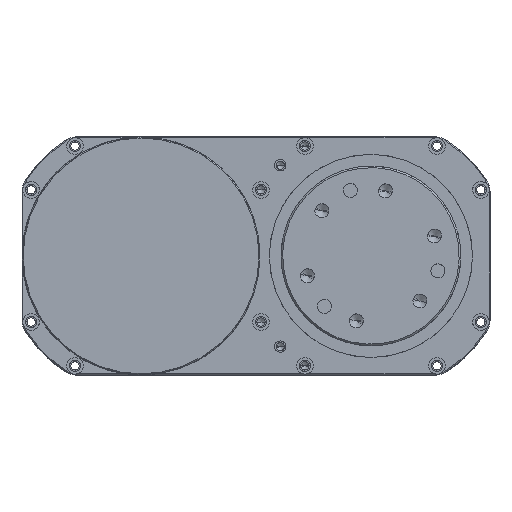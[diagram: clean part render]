
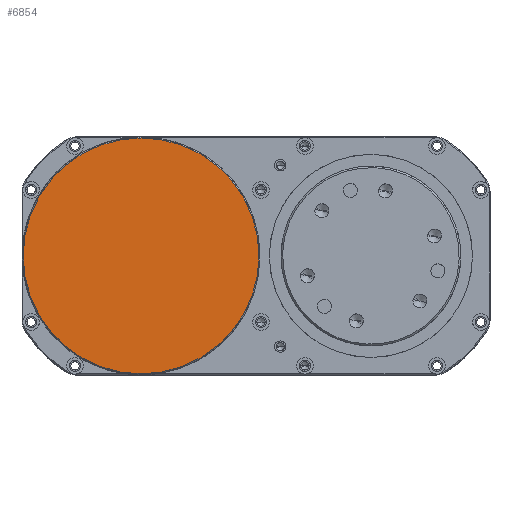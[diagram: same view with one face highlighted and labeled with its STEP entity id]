
A CAD part, top view. The second image highlights one B-rep face of the part: STEP entity #6854.
In plain terms, the highlighted planar face has unit normal (0, 0, 1).
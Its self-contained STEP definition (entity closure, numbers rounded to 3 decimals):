
#76 = DIRECTION ( 'NONE',  ( 0., 0., 1. ) ) ;
#1685 = DIRECTION ( 'NONE',  ( 0., 0., 1. ) ) ;
#2261 = EDGE_CURVE ( 'NONE', #21460, #14815, #2433, .T. ) ;
#2433 = CIRCLE ( 'NONE', #11216, 35.4 ) ;
#5266 = CARTESIAN_POINT ( 'NONE',  ( -104.4, 0., 3.5 ) ) ;
#6854 = ADVANCED_FACE ( 'NONE', ( #17108 ), #13868, .T. ) ;
#8083 = EDGE_CURVE ( 'NONE', #14815, #21460, #9798, .T. ) ;
#8190 = DIRECTION ( 'NONE',  ( 1., 0., 0. ) ) ;
#9798 = CIRCLE ( 'NONE', #15333, 35.4 ) ;
#9915 = CARTESIAN_POINT ( 'NONE',  ( -69., 0., 3.5 ) ) ;
#11216 = AXIS2_PLACEMENT_3D ( 'NONE', #9915, #13023, #8190 ) ;
#12869 = ORIENTED_EDGE ( 'NONE', *, *, #2261, .T. ) ;
#13023 = DIRECTION ( 'NONE',  ( 0., 0., 1. ) ) ;
#13373 = ORIENTED_EDGE ( 'NONE', *, *, #8083, .T. ) ;
#13868 = PLANE ( 'NONE',  #16391 ) ;
#14815 = VERTEX_POINT ( 'NONE', #17885 ) ;
#15333 = AXIS2_PLACEMENT_3D ( 'NONE', #18833, #76, #18942 ) ;
#15709 = DIRECTION ( 'NONE',  ( 1., 0., 0. ) ) ;
#16391 = AXIS2_PLACEMENT_3D ( 'NONE', #22383, #1685, #15709 ) ;
#17108 = FACE_OUTER_BOUND ( 'NONE', #17229, .T. ) ;
#17229 = EDGE_LOOP ( 'NONE', ( #12869, #13373 ) ) ;
#17885 = CARTESIAN_POINT ( 'NONE',  ( -33.6, 0., 3.5 ) ) ;
#18833 = CARTESIAN_POINT ( 'NONE',  ( -69., 0., 3.5 ) ) ;
#18942 = DIRECTION ( 'NONE',  ( 1., 0., 0. ) ) ;
#21460 = VERTEX_POINT ( 'NONE', #5266 ) ;
#22383 = CARTESIAN_POINT ( 'NONE',  ( -69., 0., 3.5 ) ) ;
